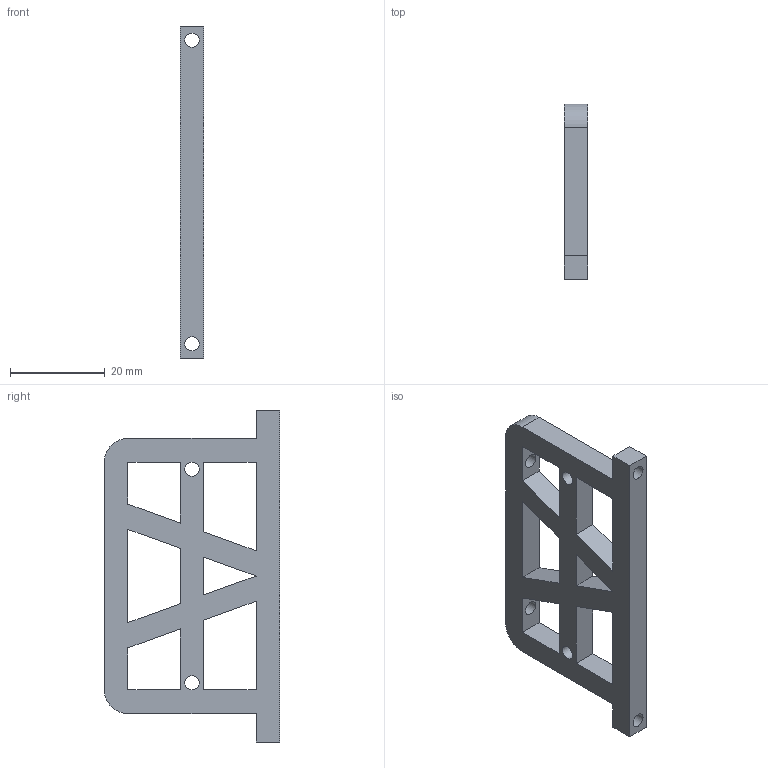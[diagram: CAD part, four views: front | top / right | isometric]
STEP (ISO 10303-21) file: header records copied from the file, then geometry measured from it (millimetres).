
FILE_DESCRIPTION(/* description */ ('STEP AP242','CAx-IF Rec.Pracs.---Representation and Presentation of Product Manufacturing Information (PMI)---4.0---2014-10-13','CAx-IF Rec.Pracs.---3D Tessellated Geometry---0.4---2014-09-14','2;1'),/* implementation_level */ '2;1');
FILE_NAME(/* name */ '679baccf5e1bcc04624b8de1',/* time_stamp */ '2025-01-30T16:46:08Z',/* author */ (''),/* organization */ (''),/* preprocessor_version */ 'ST-DEVELOPER v20',/* originating_system */ 'ONSHAPE BY PTC INC, 1.192',/* authorisation */ ' ');
FILE_SCHEMA (('AP242_MANAGED_MODEL_BASED_3D_ENGINEERING_MIM_LF { 1 0 10303 442 1 1 4 }'));
Length unit declared in the file: metre
Products named in the file (1): Support_GPS
Bounding box: 5 x 37 x 70 mm (x, y, z)
Volume: 6654.9 mm3; surface area: 5428.6 mm2
Topology: 1 solids, 1 shells, 41 faces, 117 edges, 78 vertices
Faces by surface type: plane 33, cylinder 8
Full cylindrical faces by diameter (mm): 3 x6
Entity records: 1367 total; most frequent: CARTESIAN_POINT 231, ORIENTED_EDGE 222, DIRECTION 211, EDGE_CURVE 111, LINE 95, VECTOR 95, VERTEX_POINT 78, EDGE_LOOP 71
